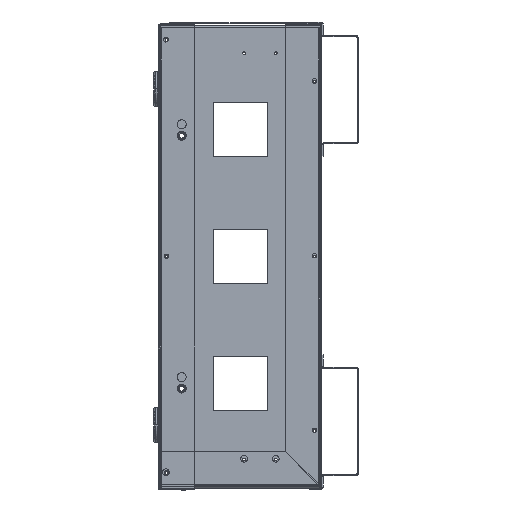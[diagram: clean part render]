
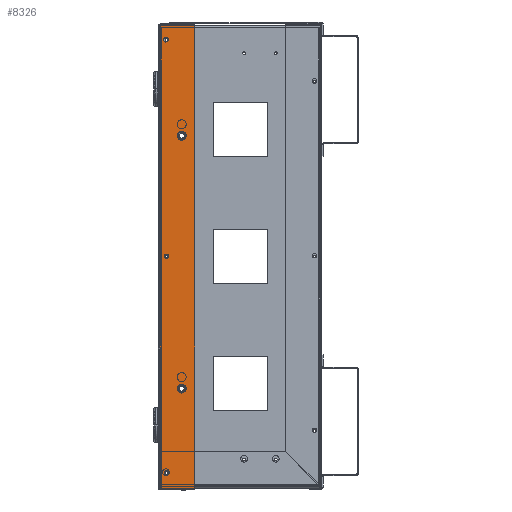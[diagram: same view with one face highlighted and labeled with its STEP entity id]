
A CAD part, left-side view. The second image highlights one B-rep face of the part: STEP entity #8326.
In plain terms, the highlighted planar face has unit normal (-1, 0, 0).
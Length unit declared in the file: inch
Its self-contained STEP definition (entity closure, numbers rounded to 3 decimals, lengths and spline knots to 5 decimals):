
#191 = CARTESIAN_POINT ( 'NONE',  ( -0.06, 0.935, 0.38588 ) ) ;
#224 = DIRECTION ( 'NONE',  ( -1., 0., 0. ) ) ;
#342 = CARTESIAN_POINT ( 'NONE',  ( -0.06, 5.61826, 1.23007 ) ) ;
#363 = DIRECTION ( 'NONE',  ( 1., 0., 0. ) ) ;
#393 = DIRECTION ( 'NONE',  ( 0., -1., 0. ) ) ;
#448 = CARTESIAN_POINT ( 'NONE',  ( -0.06, 24.935, 0.35588 ) ) ;
#478 = DIRECTION ( 'NONE',  ( -1., 0., 0. ) ) ;
#513 = CARTESIAN_POINT ( 'NONE',  ( -0.06, 19.61826, 1.23007 ) ) ;
#564 = DIRECTION ( 'NONE',  ( 1., 0., 0. ) ) ;
#590 = DIRECTION ( 'NONE',  ( 0., -1., 0. ) ) ;
#888 = CIRCLE ( 'NONE', #24054, 0.2015 ) ;
#1064 = DIRECTION ( 'NONE',  ( 0., 0., 1. ) ) ;
#1091 = CARTESIAN_POINT ( 'NONE',  ( -0.06, 0.10667, -25.72873 ) ) ;
#1095 = CARTESIAN_POINT ( 'NONE',  ( -0.06, 25.70583, -25.83495 ) ) ;
#1183 = DIRECTION ( 'NONE',  ( 0., 0., 1. ) ) ;
#1219 = ORIENTED_EDGE ( 'NONE', *, *, #6903, .T. ) ;
#1227 = CARTESIAN_POINT ( 'NONE',  ( -0.06, 13.06, 0.38588 ) ) ;
#1400 = AXIS2_PLACEMENT_3D ( 'NONE', #22008, #17541, #19688 ) ;
#1685 = CARTESIAN_POINT ( 'NONE',  ( -0.06, 25.8125, 0.04688 ) ) ;
#1729 = DIRECTION ( 'NONE',  ( 0., 0., 1. ) ) ;
#2004 = AXIS2_PLACEMENT_3D ( 'NONE', #16187, #16272, #17791 ) ;
#2267 = VERTEX_POINT ( 'NONE', #13013 ) ;
#2591 = AXIS2_PLACEMENT_3D ( 'NONE', #6999, #8102, #6397 ) ;
#3440 = VERTEX_POINT ( 'NONE', #14590 ) ;
#3567 = CIRCLE ( 'NONE', #1400, 0.125 ) ;
#3626 = CIRCLE ( 'NONE', #2004, 0.2015 ) ;
#3666 = DIRECTION ( 'NONE',  ( 0., 0., 1. ) ) ;
#3692 = DIRECTION ( 'NONE',  ( 0., 0., 1. ) ) ;
#3767 = DIRECTION ( 'NONE',  ( 0., 1., 0. ) ) ;
#3982 = CIRCLE ( 'NONE', #2591, 0.125 ) ;
#4032 = VERTEX_POINT ( 'NONE', #4456 ) ;
#4428 = ORIENTED_EDGE ( 'NONE', *, *, #6757, .T. ) ;
#4456 = CARTESIAN_POINT ( 'NONE',  ( -0.06, 25.06, 0.35588 ) ) ;
#4796 = EDGE_CURVE ( 'NONE', #6977, #10410, #3982, .T. ) ;
#4936 = EDGE_CURVE ( 'NONE', #18566, #16235, #3626, .T. ) ;
#4943 = EDGE_CURVE ( 'NONE', #7371, #21779, #3567, .T. ) ;
#5198 = DIRECTION ( 'NONE',  ( 0., 0., 1. ) ) ;
#5491 = CARTESIAN_POINT ( 'NONE',  ( -0.06, 24.935, 0.35588 ) ) ;
#5523 = EDGE_CURVE ( 'NONE', #8616, #12513, #888, .T. ) ;
#5766 = ORIENTED_EDGE ( 'NONE', *, *, #4943, .F. ) ;
#6397 = DIRECTION ( 'NONE',  ( 0., 0., 1. ) ) ;
#6720 = EDGE_CURVE ( 'NONE', #23835, #15288, #23017, .T. ) ;
#6757 = EDGE_CURVE ( 'NONE', #18733, #3440, #23048, .T. ) ;
#6868 = EDGE_CURVE ( 'NONE', #10410, #6977, #22021, .T. ) ;
#6872 = EDGE_CURVE ( 'NONE', #21779, #7371, #22096, .T. ) ;
#6874 = EDGE_CURVE ( 'NONE', #2267, #4032, #21922, .T. ) ;
#6903 = EDGE_CURVE ( 'NONE', #16235, #18566, #21860, .T. ) ;
#6904 = EDGE_CURVE ( 'NONE', #12513, #8616, #21902, .T. ) ;
#6946 = EDGE_CURVE ( 'NONE', #15288, #18733, #21750, .T. ) ;
#6952 = EDGE_CURVE ( 'NONE', #23835, #3440, #21677, .T. ) ;
#6977 = VERTEX_POINT ( 'NONE', #1227 ) ;
#6999 = CARTESIAN_POINT ( 'NONE',  ( -0.06, 12.935, 0.38588 ) ) ;
#7348 = CARTESIAN_POINT ( 'NONE',  ( -0.06, 19.41676, 1.23007 ) ) ;
#7371 = VERTEX_POINT ( 'NONE', #20063 ) ;
#7409 = EDGE_LOOP ( 'NONE', ( #8464, #12737 ) ) ;
#7993 = EDGE_LOOP ( 'NONE', ( #21678, #1219 ) ) ;
#8102 = DIRECTION ( 'NONE',  ( -1., 0., 0. ) ) ;
#8326 = ADVANCED_FACE ( 'NONE', ( #15811, #15885, #15980, #15760, #15739, #15714 ), #22296, .T. ) ;
#8464 = ORIENTED_EDGE ( 'NONE', *, *, #8775, .F. ) ;
#8616 = VERTEX_POINT ( 'NONE', #7348 ) ;
#8711 = EDGE_LOOP ( 'NONE', ( #5766, #20877 ) ) ;
#8775 = EDGE_CURVE ( 'NONE', #4032, #2267, #14112, .T. ) ;
#9991 = ORIENTED_EDGE ( 'NONE', *, *, #5523, .T. ) ;
#10115 = EDGE_LOOP ( 'NONE', ( #21877, #18758 ) ) ;
#10171 = CARTESIAN_POINT ( 'NONE',  ( -0.06, 5.81976, 1.23007 ) ) ;
#10410 = VERTEX_POINT ( 'NONE', #19020 ) ;
#12513 = VERTEX_POINT ( 'NONE', #20560 ) ;
#12737 = ORIENTED_EDGE ( 'NONE', *, *, #6874, .F. ) ;
#12841 = ORIENTED_EDGE ( 'NONE', *, *, #6904, .T. ) ;
#13013 = CARTESIAN_POINT ( 'NONE',  ( -0.06, 24.81, 0.35588 ) ) ;
#13226 = DIRECTION ( 'NONE',  ( -1., 0., 0. ) ) ;
#14112 = CIRCLE ( 'NONE', #19981, 0.125 ) ;
#14590 = CARTESIAN_POINT ( 'NONE',  ( -0.06, 25.70583, 1.94 ) ) ;
#15288 = VERTEX_POINT ( 'NONE', #21393 ) ;
#15714 = FACE_OUTER_BOUND ( 'NONE', #16122, .T. ) ;
#15739 = FACE_BOUND ( 'NONE', #20415, .T. ) ;
#15760 = FACE_BOUND ( 'NONE', #7993, .T. ) ;
#15811 = FACE_BOUND ( 'NONE', #10115, .T. ) ;
#15885 = FACE_BOUND ( 'NONE', #8711, .T. ) ;
#15980 = FACE_BOUND ( 'NONE', #7409, .T. ) ;
#16122 = EDGE_LOOP ( 'NONE', ( #23743, #4428, #19480, #21654 ) ) ;
#16187 = CARTESIAN_POINT ( 'NONE',  ( -0.06, 5.61826, 1.23007 ) ) ;
#16235 = VERTEX_POINT ( 'NONE', #10171 ) ;
#16272 = DIRECTION ( 'NONE',  ( 1., 0., 0. ) ) ;
#17199 = CARTESIAN_POINT ( 'NONE',  ( -0.06, 0.10667, 1.94 ) ) ;
#17541 = DIRECTION ( 'NONE',  ( -1., 0., 0. ) ) ;
#17568 = CARTESIAN_POINT ( 'NONE',  ( -0.06, 0.81, 0.38588 ) ) ;
#17791 = DIRECTION ( 'NONE',  ( 0., -1., 0. ) ) ;
#18566 = VERTEX_POINT ( 'NONE', #18826 ) ;
#18733 = VERTEX_POINT ( 'NONE', #17199 ) ;
#18746 = DIRECTION ( 'NONE',  ( -1., 0., 0. ) ) ;
#18758 = ORIENTED_EDGE ( 'NONE', *, *, #6868, .F. ) ;
#18826 = CARTESIAN_POINT ( 'NONE',  ( -0.06, 5.41676, 1.23007 ) ) ;
#18855 = CARTESIAN_POINT ( 'NONE',  ( -0.06, 25.70583, 0.04688 ) ) ;
#19020 = CARTESIAN_POINT ( 'NONE',  ( -0.06, 12.81, 0.38588 ) ) ;
#19355 = CARTESIAN_POINT ( 'NONE',  ( -0.06, 12.935, 0.38588 ) ) ;
#19480 = ORIENTED_EDGE ( 'NONE', *, *, #6952, .F. ) ;
#19688 = DIRECTION ( 'NONE',  ( 0., 0., 1. ) ) ;
#19981 = AXIS2_PLACEMENT_3D ( 'NONE', #5491, #13226, #1729 ) ;
#20063 = CARTESIAN_POINT ( 'NONE',  ( -0.06, 1.06, 0.38588 ) ) ;
#20415 = EDGE_LOOP ( 'NONE', ( #9991, #12841 ) ) ;
#20528 = AXIS2_PLACEMENT_3D ( 'NONE', #22348, #22496, #22502 ) ;
#20560 = CARTESIAN_POINT ( 'NONE',  ( -0.06, 19.81976, 1.23007 ) ) ;
#20877 = ORIENTED_EDGE ( 'NONE', *, *, #6872, .F. ) ;
#21393 = CARTESIAN_POINT ( 'NONE',  ( -0.06, 0.10667, 0.04688 ) ) ;
#21556 = VECTOR ( 'NONE', #1183, 39.37008 ) ;
#21610 = DIRECTION ( 'NONE',  ( 0., -1., 0. ) ) ;
#21625 = VECTOR ( 'NONE', #1064, 39.37008 ) ;
#21654 = ORIENTED_EDGE ( 'NONE', *, *, #6720, .T. ) ;
#21677 = LINE ( 'NONE', #1095, #21556 ) ;
#21678 = ORIENTED_EDGE ( 'NONE', *, *, #4936, .T. ) ;
#21750 = LINE ( 'NONE', #1091, #21625 ) ;
#21779 = VERTEX_POINT ( 'NONE', #17568 ) ;
#21860 = CIRCLE ( 'NONE', #22341, 0.2015 ) ;
#21877 = ORIENTED_EDGE ( 'NONE', *, *, #4796, .F. ) ;
#21902 = CIRCLE ( 'NONE', #22268, 0.2015 ) ;
#21922 = CIRCLE ( 'NONE', #22379, 0.125 ) ;
#22008 = CARTESIAN_POINT ( 'NONE',  ( -0.06, 0.935, 0.38588 ) ) ;
#22021 = CIRCLE ( 'NONE', #22418, 0.125 ) ;
#22096 = CIRCLE ( 'NONE', #22385, 0.125 ) ;
#22268 = AXIS2_PLACEMENT_3D ( 'NONE', #513, #564, #590 ) ;
#22296 = PLANE ( 'NONE',  #20528 ) ;
#22341 = AXIS2_PLACEMENT_3D ( 'NONE', #342, #363, #393 ) ;
#22348 = CARTESIAN_POINT ( 'NONE',  ( -0.06, 25.8125, 0. ) ) ;
#22379 = AXIS2_PLACEMENT_3D ( 'NONE', #448, #478, #3692 ) ;
#22385 = AXIS2_PLACEMENT_3D ( 'NONE', #191, #224, #3666 ) ;
#22418 = AXIS2_PLACEMENT_3D ( 'NONE', #19355, #18746, #5198 ) ;
#22496 = DIRECTION ( 'NONE',  ( -1., 0., 0. ) ) ;
#22502 = DIRECTION ( 'NONE',  ( 0., 0., 1. ) ) ;
#22837 = VECTOR ( 'NONE', #3767, 39.37008 ) ;
#22973 = VECTOR ( 'NONE', #21610, 39.37008 ) ;
#23017 = LINE ( 'NONE', #1685, #22973 ) ;
#23048 = LINE ( 'NONE', #24683, #22837 ) ;
#23743 = ORIENTED_EDGE ( 'NONE', *, *, #6946, .T. ) ;
#23835 = VERTEX_POINT ( 'NONE', #18855 ) ;
#24051 = CARTESIAN_POINT ( 'NONE',  ( -0.06, 19.61826, 1.23007 ) ) ;
#24054 = AXIS2_PLACEMENT_3D ( 'NONE', #24051, #24117, #24313 ) ;
#24117 = DIRECTION ( 'NONE',  ( 1., 0., 0. ) ) ;
#24313 = DIRECTION ( 'NONE',  ( 0., -1., 0. ) ) ;
#24683 = CARTESIAN_POINT ( 'NONE',  ( -0.06, 25.8125, 1.94 ) ) ;
